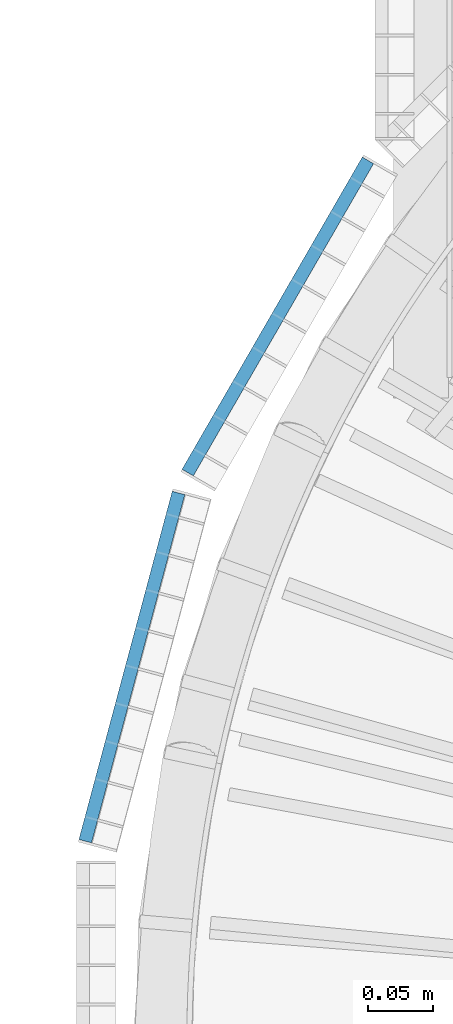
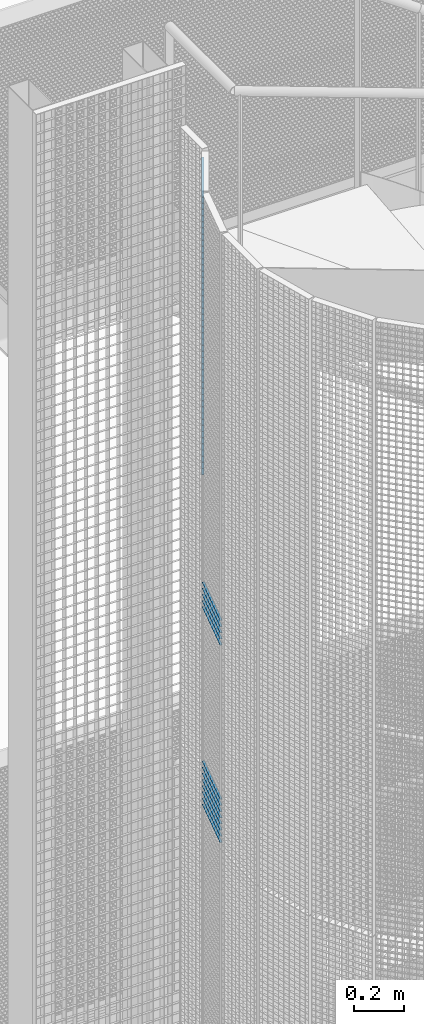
# One storey, part 185 of 1183: 59 beams, 2 elements without a shape of their own.
"""IFC2X3 building model written with IfcOpenShell, lengths in millimetres."""

from ifc_helpers import new_model, si_unit, frame, origin_with_axes, origin_2d_with_axis, place, context, subcontext, project, spatial, rectangle, extrude, material, type_object, element, aggregate, save


model = new_model("IFC2X3")

# Units and contexts
model_context = context("Model", 3, precision=1e-05, world=origin_with_axes())
body_context = subcontext(model_context, "Body", "Model", "MODEL_VIEW")
ifc_project = project(units=[si_unit("LENGTHUNIT", "METRE", prefix="MILLI"), si_unit("AREAUNIT", "SQUARE_METRE"), si_unit("VOLUMEUNIT", "CUBIC_METRE"), si_unit("MASSUNIT", "GRAM", prefix="KILO"), si_unit("TIMEUNIT", "SECOND"), si_unit("PLANEANGLEUNIT", "RADIAN"), si_unit("SOLIDANGLEUNIT", "STERADIAN"), si_unit("THERMODYNAMICTEMPERATUREUNIT", "DEGREE_CELSIUS"), si_unit("LUMINOUSINTENSITYUNIT", "LUMEN")], contexts=[model_context])

# Site, building, storey
site_placement = place(None, origin_with_axes())
site = spatial("IfcSite", under=ifc_project, at=site_placement, Name="Undefined", CompositionType="ELEMENT")
building_placement = place(site_placement, origin_with_axes())
building = spatial("IfcBuilding", under=site, at=building_placement, Name="Undefined", CompositionType="ELEMENT")
storey_placement = place(building_placement, origin_with_axes())
storey = spatial("IfcBuildingStorey", under=building, at=storey_placement, Name="Undefined", CompositionType="ELEMENT", Elevation=0.0)

# Assembly, beams
assembly_1_placement = place(storey_placement, origin_with_axes())
assembly_1 = element("IfcElementAssembly", 1, at=assembly_1_placement, inside=storey, Name="BORDURE", AssemblyPlace="NOTDEFINED", PredefinedType="NOTDEFINED")
ifc_material = material(Name="STEEL/S235JR")
beam_type = type_object("IfcBeamType", Name="PL2*10", PredefinedType="NOTDEFINED")
beam_1_placement = place(assembly_1_placement, frame((-1040.30888419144, 421.618038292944, 15990.0), z_axis=(-0.965925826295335, 0.258819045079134, 0.0), x_axis=(-0.258819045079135, -0.965925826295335, 0.0)))
beam_1 = element("IfcBeam", 2, at=beam_1_placement, type_object=beam_type, material=ifc_material, Name="ENTRETOISE", context=body_context, shape_type="SweptSolid", body=[
    extrude(rectangle(XDim=2.0, YDim=10.0, at=origin_2d_with_axis()), frame((275.999999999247, 9.09494701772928e-13, 1.53210777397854e-14), z_axis=(-1.0, 0.0, 0.0), x_axis=(0.0, -1.0, 0.0)), (0.0, 0.0, 1.0), 276.0),
])
beam_2_placement = place(assembly_1_placement, frame((-1040.30888419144, 421.618038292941, 15240.0), z_axis=(-0.965925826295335, 0.258819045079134, 0.0), x_axis=(-0.258819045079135, -0.965925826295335, 0.0)))
beam_2 = element("IfcBeam", 3, at=beam_2_placement, type_object=beam_type, material=ifc_material, Name="ENTRETOISE", context=body_context, shape_type="SweptSolid", body=[
    extrude(rectangle(XDim=2.0, YDim=10.0, at=origin_2d_with_axis()), frame((275.999999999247, 9.09494701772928e-13, 1.53210777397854e-14), z_axis=(-1.0, 0.0, 0.0), x_axis=(0.0, -1.0, 0.0)), (0.0, 0.0, 1.0), 276.0),
])
beam_3_placement = place(assembly_1_placement, frame((-1040.30888419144, 421.618038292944, 16020.0), z_axis=(-0.965925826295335, 0.258819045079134, 0.0), x_axis=(-0.258819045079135, -0.965925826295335, 0.0)))
beam_3 = element("IfcBeam", 4, at=beam_3_placement, type_object=beam_type, material=ifc_material, Name="ENTRETOISE", context=body_context, shape_type="SweptSolid", body=[
    extrude(rectangle(XDim=2.0, YDim=10.0, at=origin_2d_with_axis()), frame((275.999999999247, 9.09494701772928e-13, 1.53210777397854e-14), z_axis=(-1.0, 0.0, 0.0), x_axis=(0.0, -1.0, 0.0)), (0.0, 0.0, 1.0), 276.0),
])
beam_4_placement = place(assembly_1_placement, frame((-1040.30888419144, 421.618038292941, 15210.0), z_axis=(-0.965925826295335, 0.258819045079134, 0.0), x_axis=(-0.258819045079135, -0.965925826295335, 0.0)))
beam_4 = element("IfcBeam", 5, at=beam_4_placement, type_object=beam_type, material=ifc_material, Name="ENTRETOISE", context=body_context, shape_type="SweptSolid", body=[
    extrude(rectangle(XDim=2.0, YDim=10.0, at=origin_2d_with_axis()), frame((275.999999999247, 9.09494701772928e-13, 1.53210777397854e-14), z_axis=(-1.0, 0.0, 0.0), x_axis=(0.0, -1.0, 0.0)), (0.0, 0.0, 1.0), 276.0),
])
beam_5_placement = place(assembly_1_placement, frame((-1040.30888419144, 421.618038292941, 15180.0), z_axis=(-0.965925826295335, 0.258819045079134, 0.0), x_axis=(-0.258819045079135, -0.965925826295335, 0.0)))
beam_5 = element("IfcBeam", 6, at=beam_5_placement, type_object=beam_type, material=ifc_material, Name="ENTRETOISE", context=body_context, shape_type="SweptSolid", body=[
    extrude(rectangle(XDim=2.0, YDim=10.0, at=origin_2d_with_axis()), frame((275.999999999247, 9.09494701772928e-13, 1.53210777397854e-14), z_axis=(-1.0, 0.0, 0.0), x_axis=(0.0, -1.0, 0.0)), (0.0, 0.0, 1.0), 276.0),
])
beam_6_placement = place(assembly_1_placement, frame((-1040.30888419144, 421.618038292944, 16050.0), z_axis=(-0.965925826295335, 0.258819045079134, 0.0), x_axis=(-0.258819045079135, -0.965925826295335, 0.0)))
beam_6 = element("IfcBeam", 7, at=beam_6_placement, type_object=beam_type, material=ifc_material, Name="ENTRETOISE", context=body_context, shape_type="SweptSolid", body=[
    extrude(rectangle(XDim=2.0, YDim=10.0, at=origin_2d_with_axis()), frame((275.999999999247, 9.09494701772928e-13, 1.53210777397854e-14), z_axis=(-1.0, 0.0, 0.0), x_axis=(0.0, -1.0, 0.0)), (0.0, 0.0, 1.0), 276.0),
])
beam_7_placement = place(assembly_1_placement, frame((-1040.30888419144, 421.618038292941, 15150.0), z_axis=(-0.965925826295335, 0.258819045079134, 0.0), x_axis=(-0.258819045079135, -0.965925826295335, 0.0)))
beam_7 = element("IfcBeam", 8, at=beam_7_placement, type_object=beam_type, material=ifc_material, Name="ENTRETOISE", context=body_context, shape_type="SweptSolid", body=[
    extrude(rectangle(XDim=2.0, YDim=10.0, at=origin_2d_with_axis()), frame((275.999999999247, 9.09494701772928e-13, 1.53210777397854e-14), z_axis=(-1.0, 0.0, 0.0), x_axis=(0.0, -1.0, 0.0)), (0.0, 0.0, 1.0), 276.0),
])
beam_8_placement = place(assembly_1_placement, frame((-1040.30888419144, 421.618038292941, 15120.0), z_axis=(-0.965925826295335, 0.258819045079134, 0.0), x_axis=(-0.258819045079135, -0.965925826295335, 0.0)))
beam_8 = element("IfcBeam", 9, at=beam_8_placement, type_object=beam_type, material=ifc_material, Name="ENTRETOISE", context=body_context, shape_type="SweptSolid", body=[
    extrude(rectangle(XDim=2.0, YDim=10.0, at=origin_2d_with_axis()), frame((275.999999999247, 9.09494701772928e-13, 1.53210777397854e-14), z_axis=(-1.0, 0.0, 0.0), x_axis=(0.0, -1.0, 0.0)), (0.0, 0.0, 1.0), 276.0),
])
beam_9_placement = place(assembly_1_placement, frame((-1040.30888419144, 421.618038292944, 16080.0), z_axis=(-0.965925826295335, 0.258819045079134, 0.0), x_axis=(-0.258819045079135, -0.965925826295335, 0.0)))
beam_9 = element("IfcBeam", 10, at=beam_9_placement, type_object=beam_type, material=ifc_material, Name="ENTRETOISE", context=body_context, shape_type="SweptSolid", body=[
    extrude(rectangle(XDim=2.0, YDim=10.0, at=origin_2d_with_axis()), frame((275.999999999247, 9.09494701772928e-13, 1.53210777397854e-14), z_axis=(-1.0, 0.0, 0.0), x_axis=(0.0, -1.0, 0.0)), (0.0, 0.0, 1.0), 276.0),
])
beam_10_placement = place(assembly_1_placement, frame((-1040.30888419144, 421.618038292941, 15090.0), z_axis=(-0.965925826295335, 0.258819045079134, 0.0), x_axis=(-0.258819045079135, -0.965925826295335, 0.0)))
beam_10 = element("IfcBeam", 11, at=beam_10_placement, type_object=beam_type, material=ifc_material, Name="ENTRETOISE", context=body_context, shape_type="SweptSolid", body=[
    extrude(rectangle(XDim=2.0, YDim=10.0, at=origin_2d_with_axis()), frame((275.999999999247, 9.09494701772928e-13, 1.53210777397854e-14), z_axis=(-1.0, 0.0, 0.0), x_axis=(0.0, -1.0, 0.0)), (0.0, 0.0, 1.0), 276.0),
])
beam_11_placement = place(assembly_1_placement, frame((-1040.30888419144, 421.618038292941, 15060.0), z_axis=(-0.965925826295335, 0.258819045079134, 0.0), x_axis=(-0.258819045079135, -0.965925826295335, 0.0)))
beam_11 = element("IfcBeam", 12, at=beam_11_placement, type_object=beam_type, material=ifc_material, Name="ENTRETOISE", context=body_context, shape_type="SweptSolid", body=[
    extrude(rectangle(XDim=2.0, YDim=10.0, at=origin_2d_with_axis()), frame((275.999999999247, 9.09494701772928e-13, 1.53210777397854e-14), z_axis=(-1.0, 0.0, 0.0), x_axis=(0.0, -1.0, 0.0)), (0.0, 0.0, 1.0), 276.0),
])
beam_12_placement = place(assembly_1_placement, frame((-1040.30888419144, 421.618038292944, 16110.0), z_axis=(-0.965925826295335, 0.258819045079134, 0.0), x_axis=(-0.258819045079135, -0.965925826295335, 0.0)))
beam_12 = element("IfcBeam", 13, at=beam_12_placement, type_object=beam_type, material=ifc_material, Name="ENTRETOISE", context=body_context, shape_type="SweptSolid", body=[
    extrude(rectangle(XDim=2.0, YDim=10.0, at=origin_2d_with_axis()), frame((275.999999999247, 9.09494701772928e-13, 1.53210777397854e-14), z_axis=(-1.0, 0.0, 0.0), x_axis=(0.0, -1.0, 0.0)), (0.0, 0.0, 1.0), 276.0),
])
beam_13_placement = place(assembly_1_placement, frame((-1040.30888419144, 421.618038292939, 15030.0), z_axis=(-0.965925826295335, 0.258819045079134, 0.0), x_axis=(-0.258819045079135, -0.965925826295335, 0.0)))
beam_13 = element("IfcBeam", 14, at=beam_13_placement, type_object=beam_type, material=ifc_material, Name="ENTRETOISE", context=body_context, shape_type="SweptSolid", body=[
    extrude(rectangle(XDim=2.0, YDim=10.0, at=origin_2d_with_axis()), frame((275.999999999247, 9.09494701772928e-13, 1.53210777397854e-14), z_axis=(-1.0, 0.0, 0.0), x_axis=(0.0, -1.0, 0.0)), (0.0, 0.0, 1.0), 276.0),
])
aggregate(assembly_1, [beam_1, beam_2, beam_3, beam_4, beam_5, beam_6, beam_7, beam_8, beam_9, beam_10, beam_11, beam_12, beam_13])

assembly_2_placement = place(storey_placement, origin_with_axes())
assembly_2 = element("IfcElementAssembly", 15, at=assembly_2_placement, inside=storey, Name="BORDURE", AssemblyPlace="NOTDEFINED", PredefinedType="NOTDEFINED")
beam_14_placement = place(assembly_2_placement, frame((-895.303964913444, 676.248044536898, 17970.0), z_axis=(-0.866025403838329, 0.499999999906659, 0.0), x_axis=(-0.49999999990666, -0.866025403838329, 0.0)))
beam_14 = element("IfcBeam", 16, at=beam_14_placement, type_object=beam_type, material=ifc_material, Name="ENTRETOISE", context=body_context, shape_type="SweptSolid", body=[
    extrude(rectangle(XDim=2.0, YDim=10.0, at=origin_2d_with_axis()), frame((275.999999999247, 9.09494701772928e-13, 1.53210777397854e-14), z_axis=(-1.0, 0.0, 0.0), x_axis=(0.0, -1.0, 0.0)), (0.0, 0.0, 1.0), 276.0),
])
beam_15_placement = place(assembly_2_placement, frame((-895.303964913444, 676.248044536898, 17940.0), z_axis=(-0.866025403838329, 0.499999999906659, 0.0), x_axis=(-0.49999999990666, -0.866025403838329, 0.0)))
beam_15 = element("IfcBeam", 17, at=beam_15_placement, type_object=beam_type, material=ifc_material, Name="ENTRETOISE", context=body_context, shape_type="SweptSolid", body=[
    extrude(rectangle(XDim=2.0, YDim=10.0, at=origin_2d_with_axis()), frame((275.999999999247, 9.09494701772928e-13, 1.53210777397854e-14), z_axis=(-1.0, 0.0, 0.0), x_axis=(0.0, -1.0, 0.0)), (0.0, 0.0, 1.0), 276.0),
])
beam_16_placement = place(assembly_2_placement, frame((-895.303964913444, 676.248044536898, 17910.0), z_axis=(-0.866025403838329, 0.499999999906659, 0.0), x_axis=(-0.49999999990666, -0.866025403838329, 0.0)))
beam_16 = element("IfcBeam", 18, at=beam_16_placement, type_object=beam_type, material=ifc_material, Name="ENTRETOISE", context=body_context, shape_type="SweptSolid", body=[
    extrude(rectangle(XDim=2.0, YDim=10.0, at=origin_2d_with_axis()), frame((275.999999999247, 9.09494701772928e-13, 1.53210777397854e-14), z_axis=(-1.0, 0.0, 0.0), x_axis=(0.0, -1.0, 0.0)), (0.0, 0.0, 1.0), 276.0),
])
beam_17_placement = place(assembly_2_placement, frame((-895.303964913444, 676.248044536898, 17880.0), z_axis=(-0.866025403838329, 0.499999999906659, 0.0), x_axis=(-0.49999999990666, -0.866025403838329, 0.0)))
beam_17 = element("IfcBeam", 19, at=beam_17_placement, type_object=beam_type, material=ifc_material, Name="ENTRETOISE", context=body_context, shape_type="SweptSolid", body=[
    extrude(rectangle(XDim=2.0, YDim=10.0, at=origin_2d_with_axis()), frame((275.999999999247, 9.09494701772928e-13, 1.53210777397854e-14), z_axis=(-1.0, 0.0, 0.0), x_axis=(0.0, -1.0, 0.0)), (0.0, 0.0, 1.0), 276.0),
])
beam_18_placement = place(assembly_2_placement, frame((-895.303964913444, 676.248044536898, 17850.0), z_axis=(-0.866025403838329, 0.499999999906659, 0.0), x_axis=(-0.49999999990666, -0.866025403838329, 0.0)))
beam_18 = element("IfcBeam", 20, at=beam_18_placement, type_object=beam_type, material=ifc_material, Name="ENTRETOISE", context=body_context, shape_type="SweptSolid", body=[
    extrude(rectangle(XDim=2.0, YDim=10.0, at=origin_2d_with_axis()), frame((275.999999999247, 9.09494701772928e-13, 1.53210777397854e-14), z_axis=(-1.0, 0.0, 0.0), x_axis=(0.0, -1.0, 0.0)), (0.0, 0.0, 1.0), 276.0),
])
beam_19_placement = place(assembly_2_placement, frame((-895.303964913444, 676.248044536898, 17820.0), z_axis=(-0.866025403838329, 0.499999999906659, 0.0), x_axis=(-0.49999999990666, -0.866025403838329, 0.0)))
beam_19 = element("IfcBeam", 21, at=beam_19_placement, type_object=beam_type, material=ifc_material, Name="ENTRETOISE", context=body_context, shape_type="SweptSolid", body=[
    extrude(rectangle(XDim=2.0, YDim=10.0, at=origin_2d_with_axis()), frame((275.999999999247, 9.09494701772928e-13, 1.53210777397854e-14), z_axis=(-1.0, 0.0, 0.0), x_axis=(0.0, -1.0, 0.0)), (0.0, 0.0, 1.0), 276.0),
])
beam_20_placement = place(assembly_2_placement, frame((-895.303964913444, 676.248044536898, 17790.0), z_axis=(-0.866025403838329, 0.499999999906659, 0.0), x_axis=(-0.49999999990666, -0.866025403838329, 0.0)))
beam_20 = element("IfcBeam", 22, at=beam_20_placement, type_object=beam_type, material=ifc_material, Name="ENTRETOISE", context=body_context, shape_type="SweptSolid", body=[
    extrude(rectangle(XDim=2.0, YDim=10.0, at=origin_2d_with_axis()), frame((275.999999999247, 9.09494701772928e-13, 1.53210777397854e-14), z_axis=(-1.0, 0.0, 0.0), x_axis=(0.0, -1.0, 0.0)), (0.0, 0.0, 1.0), 276.0),
])
beam_21_placement = place(assembly_2_placement, frame((-895.303964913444, 676.248044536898, 17760.0), z_axis=(-0.866025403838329, 0.499999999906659, 0.0), x_axis=(-0.49999999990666, -0.866025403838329, 0.0)))
beam_21 = element("IfcBeam", 23, at=beam_21_placement, type_object=beam_type, material=ifc_material, Name="ENTRETOISE", context=body_context, shape_type="SweptSolid", body=[
    extrude(rectangle(XDim=2.0, YDim=10.0, at=origin_2d_with_axis()), frame((275.999999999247, 9.09494701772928e-13, 1.53210777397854e-14), z_axis=(-1.0, 0.0, 0.0), x_axis=(0.0, -1.0, 0.0)), (0.0, 0.0, 1.0), 276.0),
])
beam_22_placement = place(assembly_2_placement, frame((-895.303964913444, 676.248044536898, 17730.0), z_axis=(-0.866025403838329, 0.499999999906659, 0.0), x_axis=(-0.49999999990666, -0.866025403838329, 0.0)))
beam_22 = element("IfcBeam", 24, at=beam_22_placement, type_object=beam_type, material=ifc_material, Name="ENTRETOISE", context=body_context, shape_type="SweptSolid", body=[
    extrude(rectangle(XDim=2.0, YDim=10.0, at=origin_2d_with_axis()), frame((275.999999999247, 9.09494701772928e-13, 1.53210777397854e-14), z_axis=(-1.0, 0.0, 0.0), x_axis=(0.0, -1.0, 0.0)), (0.0, 0.0, 1.0), 276.0),
])
beam_23_placement = place(assembly_2_placement, frame((-895.303964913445, 676.248044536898, 17700.0), z_axis=(-0.866025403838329, 0.499999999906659, 0.0), x_axis=(-0.49999999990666, -0.866025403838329, 0.0)))
beam_23 = element("IfcBeam", 25, at=beam_23_placement, type_object=beam_type, material=ifc_material, Name="ENTRETOISE", context=body_context, shape_type="SweptSolid", body=[
    extrude(rectangle(XDim=2.0, YDim=10.0, at=origin_2d_with_axis()), frame((275.999999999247, 9.09494701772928e-13, 1.53210777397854e-14), z_axis=(-1.0, 0.0, 0.0), x_axis=(0.0, -1.0, 0.0)), (0.0, 0.0, 1.0), 276.0),
])
beam_24_placement = place(assembly_2_placement, frame((-895.303964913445, 676.248044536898, 17670.0), z_axis=(-0.866025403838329, 0.499999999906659, 0.0), x_axis=(-0.49999999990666, -0.866025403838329, 0.0)))
beam_24 = element("IfcBeam", 26, at=beam_24_placement, type_object=beam_type, material=ifc_material, Name="ENTRETOISE", context=body_context, shape_type="SweptSolid", body=[
    extrude(rectangle(XDim=2.0, YDim=10.0, at=origin_2d_with_axis()), frame((275.999999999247, 9.09494701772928e-13, 1.53210777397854e-14), z_axis=(-1.0, 0.0, 0.0), x_axis=(0.0, -1.0, 0.0)), (0.0, 0.0, 1.0), 276.0),
])
beam_25_placement = place(assembly_2_placement, frame((-895.303964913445, 676.248044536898, 17640.0), z_axis=(-0.866025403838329, 0.499999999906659, 0.0), x_axis=(-0.49999999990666, -0.866025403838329, 0.0)))
beam_25 = element("IfcBeam", 27, at=beam_25_placement, type_object=beam_type, material=ifc_material, Name="ENTRETOISE", context=body_context, shape_type="SweptSolid", body=[
    extrude(rectangle(XDim=2.0, YDim=10.0, at=origin_2d_with_axis()), frame((275.999999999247, 9.09494701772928e-13, 1.53210777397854e-14), z_axis=(-1.0, 0.0, 0.0), x_axis=(0.0, -1.0, 0.0)), (0.0, 0.0, 1.0), 276.0),
])
beam_26_placement = place(assembly_2_placement, frame((-895.303964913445, 676.248044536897, 17610.0), z_axis=(-0.866025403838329, 0.499999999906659, 0.0), x_axis=(-0.49999999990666, -0.866025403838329, 0.0)))
beam_26 = element("IfcBeam", 28, at=beam_26_placement, type_object=beam_type, material=ifc_material, Name="ENTRETOISE", context=body_context, shape_type="SweptSolid", body=[
    extrude(rectangle(XDim=2.0, YDim=10.0, at=origin_2d_with_axis()), frame((275.999999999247, 9.09494701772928e-13, 1.53210777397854e-14), z_axis=(-1.0, 0.0, 0.0), x_axis=(0.0, -1.0, 0.0)), (0.0, 0.0, 1.0), 276.0),
])
beam_27_placement = place(assembly_2_placement, frame((-895.303964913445, 676.248044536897, 17580.0), z_axis=(-0.866025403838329, 0.499999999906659, 0.0), x_axis=(-0.49999999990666, -0.866025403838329, 0.0)))
beam_27 = element("IfcBeam", 29, at=beam_27_placement, type_object=beam_type, material=ifc_material, Name="ENTRETOISE", context=body_context, shape_type="SweptSolid", body=[
    extrude(rectangle(XDim=2.0, YDim=10.0, at=origin_2d_with_axis()), frame((275.999999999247, 9.09494701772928e-13, 1.53210777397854e-14), z_axis=(-1.0, 0.0, 0.0), x_axis=(0.0, -1.0, 0.0)), (0.0, 0.0, 1.0), 276.0),
])
beam_28_placement = place(assembly_2_placement, frame((-895.303964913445, 676.248044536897, 17550.0), z_axis=(-0.866025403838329, 0.499999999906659, 0.0), x_axis=(-0.49999999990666, -0.866025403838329, 0.0)))
beam_28 = element("IfcBeam", 30, at=beam_28_placement, type_object=beam_type, material=ifc_material, Name="ENTRETOISE", context=body_context, shape_type="SweptSolid", body=[
    extrude(rectangle(XDim=2.0, YDim=10.0, at=origin_2d_with_axis()), frame((275.999999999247, 9.09494701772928e-13, 1.53210777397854e-14), z_axis=(-1.0, 0.0, 0.0), x_axis=(0.0, -1.0, 0.0)), (0.0, 0.0, 1.0), 276.0),
])
beam_29_placement = place(assembly_2_placement, frame((-895.303964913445, 676.248044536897, 17520.0), z_axis=(-0.866025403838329, 0.499999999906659, 0.0), x_axis=(-0.49999999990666, -0.866025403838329, 0.0)))
beam_29 = element("IfcBeam", 31, at=beam_29_placement, type_object=beam_type, material=ifc_material, Name="ENTRETOISE", context=body_context, shape_type="SweptSolid", body=[
    extrude(rectangle(XDim=2.0, YDim=10.0, at=origin_2d_with_axis()), frame((275.999999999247, 9.09494701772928e-13, 1.53210777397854e-14), z_axis=(-1.0, 0.0, 0.0), x_axis=(0.0, -1.0, 0.0)), (0.0, 0.0, 1.0), 276.0),
])
beam_30_placement = place(assembly_2_placement, frame((-895.303964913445, 676.248044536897, 17490.0), z_axis=(-0.866025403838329, 0.499999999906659, 0.0), x_axis=(-0.49999999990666, -0.866025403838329, 0.0)))
beam_30 = element("IfcBeam", 32, at=beam_30_placement, type_object=beam_type, material=ifc_material, Name="ENTRETOISE", context=body_context, shape_type="SweptSolid", body=[
    extrude(rectangle(XDim=2.0, YDim=10.0, at=origin_2d_with_axis()), frame((275.999999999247, 9.09494701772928e-13, 1.53210777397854e-14), z_axis=(-1.0, 0.0, 0.0), x_axis=(0.0, -1.0, 0.0)), (0.0, 0.0, 1.0), 276.0),
])
beam_31_placement = place(assembly_2_placement, frame((-895.303964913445, 676.248044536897, 17460.0), z_axis=(-0.866025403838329, 0.499999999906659, 0.0), x_axis=(-0.49999999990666, -0.866025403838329, 0.0)))
beam_31 = element("IfcBeam", 33, at=beam_31_placement, type_object=beam_type, material=ifc_material, Name="ENTRETOISE", context=body_context, shape_type="SweptSolid", body=[
    extrude(rectangle(XDim=2.0, YDim=10.0, at=origin_2d_with_axis()), frame((275.999999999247, 9.09494701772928e-13, 1.53210777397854e-14), z_axis=(-1.0, 0.0, 0.0), x_axis=(0.0, -1.0, 0.0)), (0.0, 0.0, 1.0), 276.0),
])
beam_32_placement = place(assembly_2_placement, frame((-895.303964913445, 676.248044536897, 17430.0), z_axis=(-0.866025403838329, 0.499999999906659, 0.0), x_axis=(-0.49999999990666, -0.866025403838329, 0.0)))
beam_32 = element("IfcBeam", 34, at=beam_32_placement, type_object=beam_type, material=ifc_material, Name="ENTRETOISE", context=body_context, shape_type="SweptSolid", body=[
    extrude(rectangle(XDim=2.0, YDim=10.0, at=origin_2d_with_axis()), frame((275.999999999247, 9.09494701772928e-13, 1.53210777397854e-14), z_axis=(-1.0, 0.0, 0.0), x_axis=(0.0, -1.0, 0.0)), (0.0, 0.0, 1.0), 276.0),
])
beam_33_placement = place(assembly_2_placement, frame((-895.303964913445, 676.248044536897, 17400.0), z_axis=(-0.866025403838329, 0.499999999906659, 0.0), x_axis=(-0.49999999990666, -0.866025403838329, 0.0)))
beam_33 = element("IfcBeam", 35, at=beam_33_placement, type_object=beam_type, material=ifc_material, Name="ENTRETOISE", context=body_context, shape_type="SweptSolid", body=[
    extrude(rectangle(XDim=2.0, YDim=10.0, at=origin_2d_with_axis()), frame((275.999999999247, 9.09494701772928e-13, 1.53210777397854e-14), z_axis=(-1.0, 0.0, 0.0), x_axis=(0.0, -1.0, 0.0)), (0.0, 0.0, 1.0), 276.0),
])
beam_34_placement = place(assembly_2_placement, frame((-895.303964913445, 676.248044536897, 17370.0), z_axis=(-0.866025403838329, 0.499999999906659, 0.0), x_axis=(-0.49999999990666, -0.866025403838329, 0.0)))
beam_34 = element("IfcBeam", 36, at=beam_34_placement, type_object=beam_type, material=ifc_material, Name="ENTRETOISE", context=body_context, shape_type="SweptSolid", body=[
    extrude(rectangle(XDim=2.0, YDim=10.0, at=origin_2d_with_axis()), frame((275.999999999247, 9.09494701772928e-13, 1.53210777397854e-14), z_axis=(-1.0, 0.0, 0.0), x_axis=(0.0, -1.0, 0.0)), (0.0, 0.0, 1.0), 276.0),
])
beam_35_placement = place(assembly_2_placement, frame((-895.303964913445, 676.248044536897, 17340.0), z_axis=(-0.866025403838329, 0.499999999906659, 0.0), x_axis=(-0.49999999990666, -0.866025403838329, 0.0)))
beam_35 = element("IfcBeam", 37, at=beam_35_placement, type_object=beam_type, material=ifc_material, Name="ENTRETOISE", context=body_context, shape_type="SweptSolid", body=[
    extrude(rectangle(XDim=2.0, YDim=10.0, at=origin_2d_with_axis()), frame((275.999999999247, 9.09494701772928e-13, 1.53210777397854e-14), z_axis=(-1.0, 0.0, 0.0), x_axis=(0.0, -1.0, 0.0)), (0.0, 0.0, 1.0), 276.0),
])
beam_36_placement = place(assembly_2_placement, frame((-895.303964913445, 676.248044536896, 17310.0), z_axis=(-0.866025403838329, 0.499999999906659, 0.0), x_axis=(-0.49999999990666, -0.866025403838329, 0.0)))
beam_36 = element("IfcBeam", 38, at=beam_36_placement, type_object=beam_type, material=ifc_material, Name="ENTRETOISE", context=body_context, shape_type="SweptSolid", body=[
    extrude(rectangle(XDim=2.0, YDim=10.0, at=origin_2d_with_axis()), frame((275.999999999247, 9.09494701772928e-13, 1.53210777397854e-14), z_axis=(-1.0, 0.0, 0.0), x_axis=(0.0, -1.0, 0.0)), (0.0, 0.0, 1.0), 276.0),
])
beam_37_placement = place(assembly_2_placement, frame((-895.303964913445, 676.248044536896, 17280.0), z_axis=(-0.866025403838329, 0.499999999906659, 0.0), x_axis=(-0.49999999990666, -0.866025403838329, 0.0)))
beam_37 = element("IfcBeam", 39, at=beam_37_placement, type_object=beam_type, material=ifc_material, Name="ENTRETOISE", context=body_context, shape_type="SweptSolid", body=[
    extrude(rectangle(XDim=2.0, YDim=10.0, at=origin_2d_with_axis()), frame((275.999999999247, 9.09494701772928e-13, 1.53210777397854e-14), z_axis=(-1.0, 0.0, 0.0), x_axis=(0.0, -1.0, 0.0)), (0.0, 0.0, 1.0), 276.0),
])
beam_38_placement = place(assembly_2_placement, frame((-895.303964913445, 676.248044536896, 17250.0), z_axis=(-0.866025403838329, 0.499999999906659, 0.0), x_axis=(-0.49999999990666, -0.866025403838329, 0.0)))
beam_38 = element("IfcBeam", 40, at=beam_38_placement, type_object=beam_type, material=ifc_material, Name="ENTRETOISE", context=body_context, shape_type="SweptSolid", body=[
    extrude(rectangle(XDim=2.0, YDim=10.0, at=origin_2d_with_axis()), frame((275.999999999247, 9.09494701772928e-13, 1.53210777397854e-14), z_axis=(-1.0, 0.0, 0.0), x_axis=(0.0, -1.0, 0.0)), (0.0, 0.0, 1.0), 276.0),
])
beam_39_placement = place(assembly_2_placement, frame((-895.303964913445, 676.248044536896, 17220.0), z_axis=(-0.866025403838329, 0.499999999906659, 0.0), x_axis=(-0.49999999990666, -0.866025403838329, 0.0)))
beam_39 = element("IfcBeam", 41, at=beam_39_placement, type_object=beam_type, material=ifc_material, Name="ENTRETOISE", context=body_context, shape_type="SweptSolid", body=[
    extrude(rectangle(XDim=2.0, YDim=10.0, at=origin_2d_with_axis()), frame((275.999999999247, 9.09494701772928e-13, 1.53210777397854e-14), z_axis=(-1.0, 0.0, 0.0), x_axis=(0.0, -1.0, 0.0)), (0.0, 0.0, 1.0), 276.0),
])
beam_40_placement = place(assembly_2_placement, frame((-895.303964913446, 676.248044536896, 17190.0), z_axis=(-0.866025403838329, 0.499999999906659, 0.0), x_axis=(-0.49999999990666, -0.866025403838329, 0.0)))
beam_40 = element("IfcBeam", 42, at=beam_40_placement, type_object=beam_type, material=ifc_material, Name="ENTRETOISE", context=body_context, shape_type="SweptSolid", body=[
    extrude(rectangle(XDim=2.0, YDim=10.0, at=origin_2d_with_axis()), frame((275.999999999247, 9.09494701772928e-13, 1.53210777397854e-14), z_axis=(-1.0, 0.0, 0.0), x_axis=(0.0, -1.0, 0.0)), (0.0, 0.0, 1.0), 276.0),
])
beam_41_placement = place(assembly_2_placement, frame((-895.303964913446, 676.248044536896, 17160.0), z_axis=(-0.866025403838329, 0.499999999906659, 0.0), x_axis=(-0.49999999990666, -0.866025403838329, 0.0)))
beam_41 = element("IfcBeam", 43, at=beam_41_placement, type_object=beam_type, material=ifc_material, Name="ENTRETOISE", context=body_context, shape_type="SweptSolid", body=[
    extrude(rectangle(XDim=2.0, YDim=10.0, at=origin_2d_with_axis()), frame((275.999999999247, 9.09494701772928e-13, 1.53210777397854e-14), z_axis=(-1.0, 0.0, 0.0), x_axis=(0.0, -1.0, 0.0)), (0.0, 0.0, 1.0), 276.0),
])
beam_42_placement = place(assembly_2_placement, frame((-895.303964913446, 676.248044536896, 17130.0), z_axis=(-0.866025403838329, 0.499999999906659, 0.0), x_axis=(-0.49999999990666, -0.866025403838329, 0.0)))
beam_42 = element("IfcBeam", 44, at=beam_42_placement, type_object=beam_type, material=ifc_material, Name="ENTRETOISE", context=body_context, shape_type="SweptSolid", body=[
    extrude(rectangle(XDim=2.0, YDim=10.0, at=origin_2d_with_axis()), frame((275.999999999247, 9.09494701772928e-13, 1.53210777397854e-14), z_axis=(-1.0, 0.0, 0.0), x_axis=(0.0, -1.0, 0.0)), (0.0, 0.0, 1.0), 276.0),
])
beam_43_placement = place(assembly_2_placement, frame((-895.303964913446, 676.248044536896, 17100.0), z_axis=(-0.866025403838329, 0.499999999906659, 0.0), x_axis=(-0.49999999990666, -0.866025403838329, 0.0)))
beam_43 = element("IfcBeam", 45, at=beam_43_placement, type_object=beam_type, material=ifc_material, Name="ENTRETOISE", context=body_context, shape_type="SweptSolid", body=[
    extrude(rectangle(XDim=2.0, YDim=10.0, at=origin_2d_with_axis()), frame((275.999999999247, 9.09494701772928e-13, 1.53210777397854e-14), z_axis=(-1.0, 0.0, 0.0), x_axis=(0.0, -1.0, 0.0)), (0.0, 0.0, 1.0), 276.0),
])
beam_44_placement = place(assembly_2_placement, frame((-895.303964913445, 676.248044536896, 17070.0), z_axis=(-0.866025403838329, 0.499999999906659, 0.0), x_axis=(-0.49999999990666, -0.866025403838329, 0.0)))
beam_44 = element("IfcBeam", 46, at=beam_44_placement, type_object=beam_type, material=ifc_material, Name="ENTRETOISE", context=body_context, shape_type="SweptSolid", body=[
    extrude(rectangle(XDim=2.0, YDim=10.0, at=origin_2d_with_axis()), frame((275.999999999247, 9.09494701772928e-13, 1.53210777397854e-14), z_axis=(-1.0, 0.0, 0.0), x_axis=(0.0, -1.0, 0.0)), (0.0, 0.0, 1.0), 276.0),
])
beam_45_placement = place(assembly_2_placement, frame((-895.303964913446, 676.248044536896, 17040.0), z_axis=(-0.866025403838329, 0.499999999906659, 0.0), x_axis=(-0.49999999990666, -0.866025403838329, 0.0)))
beam_45 = element("IfcBeam", 47, at=beam_45_placement, type_object=beam_type, material=ifc_material, Name="ENTRETOISE", context=body_context, shape_type="SweptSolid", body=[
    extrude(rectangle(XDim=2.0, YDim=10.0, at=origin_2d_with_axis()), frame((275.999999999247, 9.09494701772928e-13, 1.53210777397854e-14), z_axis=(-1.0, 0.0, 0.0), x_axis=(0.0, -1.0, 0.0)), (0.0, 0.0, 1.0), 276.0),
])
beam_46_placement = place(assembly_2_placement, frame((-895.303964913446, 676.248044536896, 17010.0), z_axis=(-0.866025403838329, 0.499999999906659, 0.0), x_axis=(-0.49999999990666, -0.866025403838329, 0.0)))
beam_46 = element("IfcBeam", 48, at=beam_46_placement, type_object=beam_type, material=ifc_material, Name="ENTRETOISE", context=body_context, shape_type="SweptSolid", body=[
    extrude(rectangle(XDim=2.0, YDim=10.0, at=origin_2d_with_axis()), frame((275.999999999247, 9.09494701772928e-13, 1.53210777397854e-14), z_axis=(-1.0, 0.0, 0.0), x_axis=(0.0, -1.0, 0.0)), (0.0, 0.0, 1.0), 276.0),
])
beam_47_placement = place(assembly_2_placement, frame((-895.303964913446, 676.248044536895, 16980.0), z_axis=(-0.866025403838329, 0.499999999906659, 0.0), x_axis=(-0.49999999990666, -0.866025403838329, 0.0)))
beam_47 = element("IfcBeam", 49, at=beam_47_placement, type_object=beam_type, material=ifc_material, Name="ENTRETOISE", context=body_context, shape_type="SweptSolid", body=[
    extrude(rectangle(XDim=2.0, YDim=10.0, at=origin_2d_with_axis()), frame((275.999999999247, 9.09494701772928e-13, 1.53210777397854e-14), z_axis=(-1.0, 0.0, 0.0), x_axis=(0.0, -1.0, 0.0)), (0.0, 0.0, 1.0), 276.0),
])
beam_48_placement = place(assembly_2_placement, frame((-895.303964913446, 676.248044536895, 16950.0), z_axis=(-0.866025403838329, 0.499999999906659, 0.0), x_axis=(-0.49999999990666, -0.866025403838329, 0.0)))
beam_48 = element("IfcBeam", 50, at=beam_48_placement, type_object=beam_type, material=ifc_material, Name="ENTRETOISE", context=body_context, shape_type="SweptSolid", body=[
    extrude(rectangle(XDim=2.0, YDim=10.0, at=origin_2d_with_axis()), frame((275.999999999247, 9.09494701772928e-13, 1.53210777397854e-14), z_axis=(-1.0, 0.0, 0.0), x_axis=(0.0, -1.0, 0.0)), (0.0, 0.0, 1.0), 276.0),
])
beam_49_placement = place(assembly_2_placement, frame((-895.303964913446, 676.248044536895, 16920.0), z_axis=(-0.866025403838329, 0.499999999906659, 0.0), x_axis=(-0.49999999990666, -0.866025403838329, 0.0)))
beam_49 = element("IfcBeam", 51, at=beam_49_placement, type_object=beam_type, material=ifc_material, Name="ENTRETOISE", context=body_context, shape_type="SweptSolid", body=[
    extrude(rectangle(XDim=2.0, YDim=10.0, at=origin_2d_with_axis()), frame((275.999999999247, 9.09494701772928e-13, 1.53210777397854e-14), z_axis=(-1.0, 0.0, 0.0), x_axis=(0.0, -1.0, 0.0)), (0.0, 0.0, 1.0), 276.0),
])
beam_50_placement = place(assembly_2_placement, frame((-895.303964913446, 676.248044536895, 16890.0), z_axis=(-0.866025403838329, 0.499999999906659, 0.0), x_axis=(-0.49999999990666, -0.866025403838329, 0.0)))
beam_50 = element("IfcBeam", 52, at=beam_50_placement, type_object=beam_type, material=ifc_material, Name="ENTRETOISE", context=body_context, shape_type="SweptSolid", body=[
    extrude(rectangle(XDim=2.0, YDim=10.0, at=origin_2d_with_axis()), frame((275.999999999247, 9.09494701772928e-13, 1.53210777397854e-14), z_axis=(-1.0, 0.0, 0.0), x_axis=(0.0, -1.0, 0.0)), (0.0, 0.0, 1.0), 276.0),
])
beam_51_placement = place(assembly_2_placement, frame((-895.303964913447, 676.248044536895, 16860.0), z_axis=(-0.866025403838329, 0.499999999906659, 0.0), x_axis=(-0.49999999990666, -0.866025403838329, 0.0)))
beam_51 = element("IfcBeam", 53, at=beam_51_placement, type_object=beam_type, material=ifc_material, Name="ENTRETOISE", context=body_context, shape_type="SweptSolid", body=[
    extrude(rectangle(XDim=2.0, YDim=10.0, at=origin_2d_with_axis()), frame((275.999999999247, 9.09494701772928e-13, 1.53210777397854e-14), z_axis=(-1.0, 0.0, 0.0), x_axis=(0.0, -1.0, 0.0)), (0.0, 0.0, 1.0), 276.0),
])
beam_52_placement = place(assembly_2_placement, frame((-895.303964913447, 676.248044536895, 16830.0), z_axis=(-0.866025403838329, 0.499999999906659, 0.0), x_axis=(-0.49999999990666, -0.866025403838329, 0.0)))
beam_52 = element("IfcBeam", 54, at=beam_52_placement, type_object=beam_type, material=ifc_material, Name="ENTRETOISE", context=body_context, shape_type="SweptSolid", body=[
    extrude(rectangle(XDim=2.0, YDim=10.0, at=origin_2d_with_axis()), frame((275.999999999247, 9.09494701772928e-13, 1.53210777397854e-14), z_axis=(-1.0, 0.0, 0.0), x_axis=(0.0, -1.0, 0.0)), (0.0, 0.0, 1.0), 276.0),
])
beam_53_placement = place(assembly_2_placement, frame((-895.303964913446, 676.248044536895, 16800.0), z_axis=(-0.866025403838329, 0.499999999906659, 0.0), x_axis=(-0.49999999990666, -0.866025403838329, 0.0)))
beam_53 = element("IfcBeam", 55, at=beam_53_placement, type_object=beam_type, material=ifc_material, Name="ENTRETOISE", context=body_context, shape_type="SweptSolid", body=[
    extrude(rectangle(XDim=2.0, YDim=10.0, at=origin_2d_with_axis()), frame((275.999999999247, 9.09494701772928e-13, 1.53210777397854e-14), z_axis=(-1.0, 0.0, 0.0), x_axis=(0.0, -1.0, 0.0)), (0.0, 0.0, 1.0), 276.0),
])
beam_54_placement = place(assembly_2_placement, frame((-895.303964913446, 676.248044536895, 16770.0), z_axis=(-0.866025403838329, 0.499999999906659, 0.0), x_axis=(-0.49999999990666, -0.866025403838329, 0.0)))
beam_54 = element("IfcBeam", 56, at=beam_54_placement, type_object=beam_type, material=ifc_material, Name="ENTRETOISE", context=body_context, shape_type="SweptSolid", body=[
    extrude(rectangle(XDim=2.0, YDim=10.0, at=origin_2d_with_axis()), frame((275.999999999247, 9.09494701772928e-13, 1.53210777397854e-14), z_axis=(-1.0, 0.0, 0.0), x_axis=(0.0, -1.0, 0.0)), (0.0, 0.0, 1.0), 276.0),
])
beam_55_placement = place(assembly_2_placement, frame((-895.303964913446, 676.248044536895, 16740.0), z_axis=(-0.866025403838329, 0.499999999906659, 0.0), x_axis=(-0.49999999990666, -0.866025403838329, 0.0)))
beam_55 = element("IfcBeam", 57, at=beam_55_placement, type_object=beam_type, material=ifc_material, Name="ENTRETOISE", context=body_context, shape_type="SweptSolid", body=[
    extrude(rectangle(XDim=2.0, YDim=10.0, at=origin_2d_with_axis()), frame((275.999999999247, 9.09494701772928e-13, 1.53210777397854e-14), z_axis=(-1.0, 0.0, 0.0), x_axis=(0.0, -1.0, 0.0)), (0.0, 0.0, 1.0), 276.0),
])
beam_56_placement = place(assembly_2_placement, frame((-895.303964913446, 676.248044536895, 16710.0), z_axis=(-0.866025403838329, 0.499999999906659, 0.0), x_axis=(-0.49999999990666, -0.866025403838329, 0.0)))
beam_56 = element("IfcBeam", 58, at=beam_56_placement, type_object=beam_type, material=ifc_material, Name="ENTRETOISE", context=body_context, shape_type="SweptSolid", body=[
    extrude(rectangle(XDim=2.0, YDim=10.0, at=origin_2d_with_axis()), frame((275.999999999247, 9.09494701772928e-13, 1.53210777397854e-14), z_axis=(-1.0, 0.0, 0.0), x_axis=(0.0, -1.0, 0.0)), (0.0, 0.0, 1.0), 276.0),
])
beam_57_placement = place(assembly_2_placement, frame((-895.303964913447, 676.248044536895, 16680.0), z_axis=(-0.866025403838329, 0.499999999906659, 0.0), x_axis=(-0.49999999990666, -0.866025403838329, 0.0)))
beam_57 = element("IfcBeam", 59, at=beam_57_placement, type_object=beam_type, material=ifc_material, Name="ENTRETOISE", context=body_context, shape_type="SweptSolid", body=[
    extrude(rectangle(XDim=2.0, YDim=10.0, at=origin_2d_with_axis()), frame((275.999999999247, 9.09494701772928e-13, 1.53210777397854e-14), z_axis=(-1.0, 0.0, 0.0), x_axis=(0.0, -1.0, 0.0)), (0.0, 0.0, 1.0), 276.0),
])
beam_58_placement = place(assembly_2_placement, frame((-895.303964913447, 676.248044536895, 16650.0), z_axis=(-0.866025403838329, 0.499999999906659, 0.0), x_axis=(-0.49999999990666, -0.866025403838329, 0.0)))
beam_58 = element("IfcBeam", 60, at=beam_58_placement, type_object=beam_type, material=ifc_material, Name="ENTRETOISE", context=body_context, shape_type="SweptSolid", body=[
    extrude(rectangle(XDim=2.0, YDim=10.0, at=origin_2d_with_axis()), frame((275.999999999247, 9.09494701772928e-13, 1.53210777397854e-14), z_axis=(-1.0, 0.0, 0.0), x_axis=(0.0, -1.0, 0.0)), (0.0, 0.0, 1.0), 276.0),
])
beam_59_placement = place(assembly_2_placement, frame((-895.303964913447, 676.248044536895, 16620.0), z_axis=(-0.866025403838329, 0.499999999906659, 0.0), x_axis=(-0.49999999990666, -0.866025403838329, 0.0)))
beam_59 = element("IfcBeam", 61, at=beam_59_placement, type_object=beam_type, material=ifc_material, Name="ENTRETOISE", context=body_context, shape_type="SweptSolid", body=[
    extrude(rectangle(XDim=2.0, YDim=10.0, at=origin_2d_with_axis()), frame((275.999999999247, 9.09494701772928e-13, 1.53210777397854e-14), z_axis=(-1.0, 0.0, 0.0), x_axis=(0.0, -1.0, 0.0)), (0.0, 0.0, 1.0), 276.0),
])
aggregate(assembly_2, [beam_14, beam_15, beam_16, beam_17, beam_18, beam_19, beam_20, beam_21, beam_22, beam_23, beam_24, beam_25, beam_26, beam_27, beam_28, beam_29, beam_30, beam_31, beam_32, beam_33, beam_34, beam_35, beam_36, beam_37, beam_38, beam_39, beam_40, beam_41, beam_42, beam_43, beam_44, beam_45, beam_46, beam_47, beam_48, beam_49, beam_50, beam_51, beam_52, beam_53, beam_54, beam_55, beam_56, beam_57, beam_58, beam_59])

save(model, "model.ifc")
